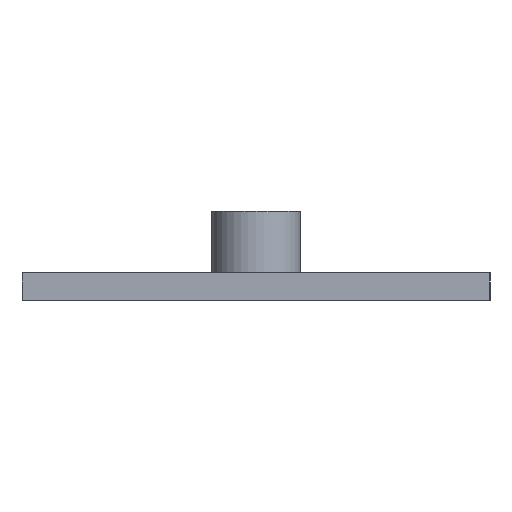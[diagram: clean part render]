
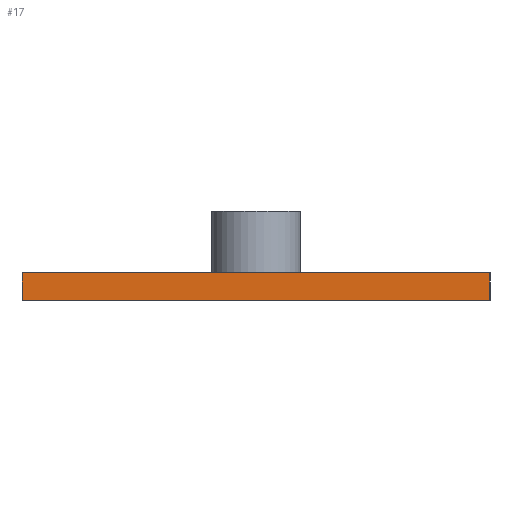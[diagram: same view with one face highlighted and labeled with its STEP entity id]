
A CAD part, left-side view. The second image highlights one B-rep face of the part: STEP entity #17.
In plain terms, the highlighted planar face has unit normal (-1, 0, 0).
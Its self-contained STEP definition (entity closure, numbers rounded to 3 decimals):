
#17 = ADVANCED_FACE('',(#18),#32,.F.);
#18 = FACE_BOUND('',#19,.F.);
#19 = EDGE_LOOP('',(#20,#55,#83,#111));
#20 = ORIENTED_EDGE('',*,*,#21,.F.);
#21 = EDGE_CURVE('',#22,#24,#26,.T.);
#22 = VERTEX_POINT('',#23);
#23 = CARTESIAN_POINT('',(0.,0.,0.));
#24 = VERTEX_POINT('',#25);
#25 = CARTESIAN_POINT('',(0.,0.,2.5));
#26 = SURFACE_CURVE('',#27,(#31,#43),.PCURVE_S1.);
#27 = LINE('',#28,#29);
#28 = CARTESIAN_POINT('',(0.,0.,0.));
#29 = VECTOR('',#30,1.);
#30 = DIRECTION('',(0.,0.,1.));
#31 = PCURVE('',#32,#37);
#32 = PLANE('',#33);
#33 = AXIS2_PLACEMENT_3D('',#34,#35,#36);
#34 = CARTESIAN_POINT('',(0.,0.,0.));
#35 = DIRECTION('',(1.,0.,0.));
#36 = DIRECTION('',(0.,0.,1.));
#37 = DEFINITIONAL_REPRESENTATION('',(#38),#42);
#38 = LINE('',#39,#40);
#39 = CARTESIAN_POINT('',(0.,0.));
#40 = VECTOR('',#41,1.);
#41 = DIRECTION('',(1.,0.));
#42 = ( GEOMETRIC_REPRESENTATION_CONTEXT(2) 
PARAMETRIC_REPRESENTATION_CONTEXT() REPRESENTATION_CONTEXT('2D SPACE',''
  ) );
#43 = PCURVE('',#44,#49);
#44 = PLANE('',#45);
#45 = AXIS2_PLACEMENT_3D('',#46,#47,#48);
#46 = CARTESIAN_POINT('',(0.,0.,0.));
#47 = DIRECTION('',(0.,1.,0.));
#48 = DIRECTION('',(0.,0.,1.));
#49 = DEFINITIONAL_REPRESENTATION('',(#50),#54);
#50 = LINE('',#51,#52);
#51 = CARTESIAN_POINT('',(0.,0.));
#52 = VECTOR('',#53,1.);
#53 = DIRECTION('',(1.,0.));
#54 = ( GEOMETRIC_REPRESENTATION_CONTEXT(2) 
PARAMETRIC_REPRESENTATION_CONTEXT() REPRESENTATION_CONTEXT('2D SPACE',''
  ) );
#55 = ORIENTED_EDGE('',*,*,#56,.T.);
#56 = EDGE_CURVE('',#22,#57,#59,.T.);
#57 = VERTEX_POINT('',#58);
#58 = CARTESIAN_POINT('',(0.,42.,0.));
#59 = SURFACE_CURVE('',#60,(#64,#71),.PCURVE_S1.);
#60 = LINE('',#61,#62);
#61 = CARTESIAN_POINT('',(0.,0.,0.));
#62 = VECTOR('',#63,1.);
#63 = DIRECTION('',(0.,1.,0.));
#64 = PCURVE('',#32,#65);
#65 = DEFINITIONAL_REPRESENTATION('',(#66),#70);
#66 = LINE('',#67,#68);
#67 = CARTESIAN_POINT('',(0.,0.));
#68 = VECTOR('',#69,1.);
#69 = DIRECTION('',(0.,-1.));
#70 = ( GEOMETRIC_REPRESENTATION_CONTEXT(2) 
PARAMETRIC_REPRESENTATION_CONTEXT() REPRESENTATION_CONTEXT('2D SPACE',''
  ) );
#71 = PCURVE('',#72,#77);
#72 = PLANE('',#73);
#73 = AXIS2_PLACEMENT_3D('',#74,#75,#76);
#74 = CARTESIAN_POINT('',(0.,0.,0.));
#75 = DIRECTION('',(0.,0.,1.));
#76 = DIRECTION('',(1.,0.,0.));
#77 = DEFINITIONAL_REPRESENTATION('',(#78),#82);
#78 = LINE('',#79,#80);
#79 = CARTESIAN_POINT('',(0.,0.));
#80 = VECTOR('',#81,1.);
#81 = DIRECTION('',(0.,1.));
#82 = ( GEOMETRIC_REPRESENTATION_CONTEXT(2) 
PARAMETRIC_REPRESENTATION_CONTEXT() REPRESENTATION_CONTEXT('2D SPACE',''
  ) );
#83 = ORIENTED_EDGE('',*,*,#84,.T.);
#84 = EDGE_CURVE('',#57,#85,#87,.T.);
#85 = VERTEX_POINT('',#86);
#86 = CARTESIAN_POINT('',(0.,42.,2.5));
#87 = SURFACE_CURVE('',#88,(#92,#99),.PCURVE_S1.);
#88 = LINE('',#89,#90);
#89 = CARTESIAN_POINT('',(0.,42.,0.));
#90 = VECTOR('',#91,1.);
#91 = DIRECTION('',(0.,0.,1.));
#92 = PCURVE('',#32,#93);
#93 = DEFINITIONAL_REPRESENTATION('',(#94),#98);
#94 = LINE('',#95,#96);
#95 = CARTESIAN_POINT('',(0.,-42.));
#96 = VECTOR('',#97,1.);
#97 = DIRECTION('',(1.,0.));
#98 = ( GEOMETRIC_REPRESENTATION_CONTEXT(2) 
PARAMETRIC_REPRESENTATION_CONTEXT() REPRESENTATION_CONTEXT('2D SPACE',''
  ) );
#99 = PCURVE('',#100,#105);
#100 = PLANE('',#101);
#101 = AXIS2_PLACEMENT_3D('',#102,#103,#104);
#102 = CARTESIAN_POINT('',(0.,42.,0.));
#103 = DIRECTION('',(0.,1.,0.));
#104 = DIRECTION('',(0.,0.,1.));
#105 = DEFINITIONAL_REPRESENTATION('',(#106),#110);
#106 = LINE('',#107,#108);
#107 = CARTESIAN_POINT('',(0.,0.));
#108 = VECTOR('',#109,1.);
#109 = DIRECTION('',(1.,0.));
#110 = ( GEOMETRIC_REPRESENTATION_CONTEXT(2) 
PARAMETRIC_REPRESENTATION_CONTEXT() REPRESENTATION_CONTEXT('2D SPACE',''
  ) );
#111 = ORIENTED_EDGE('',*,*,#112,.F.);
#112 = EDGE_CURVE('',#24,#85,#113,.T.);
#113 = SURFACE_CURVE('',#114,(#118,#125),.PCURVE_S1.);
#114 = LINE('',#115,#116);
#115 = CARTESIAN_POINT('',(0.,0.,2.5));
#116 = VECTOR('',#117,1.);
#117 = DIRECTION('',(0.,1.,0.));
#118 = PCURVE('',#32,#119);
#119 = DEFINITIONAL_REPRESENTATION('',(#120),#124);
#120 = LINE('',#121,#122);
#121 = CARTESIAN_POINT('',(2.5,0.));
#122 = VECTOR('',#123,1.);
#123 = DIRECTION('',(0.,-1.));
#124 = ( GEOMETRIC_REPRESENTATION_CONTEXT(2) 
PARAMETRIC_REPRESENTATION_CONTEXT() REPRESENTATION_CONTEXT('2D SPACE',''
  ) );
#125 = PCURVE('',#126,#131);
#126 = PLANE('',#127);
#127 = AXIS2_PLACEMENT_3D('',#128,#129,#130);
#128 = CARTESIAN_POINT('',(0.,0.,2.5));
#129 = DIRECTION('',(0.,0.,1.));
#130 = DIRECTION('',(1.,0.,0.));
#131 = DEFINITIONAL_REPRESENTATION('',(#132),#136);
#132 = LINE('',#133,#134);
#133 = CARTESIAN_POINT('',(0.,0.));
#134 = VECTOR('',#135,1.);
#135 = DIRECTION('',(0.,1.));
#136 = ( GEOMETRIC_REPRESENTATION_CONTEXT(2) 
PARAMETRIC_REPRESENTATION_CONTEXT() REPRESENTATION_CONTEXT('2D SPACE',''
  ) );
